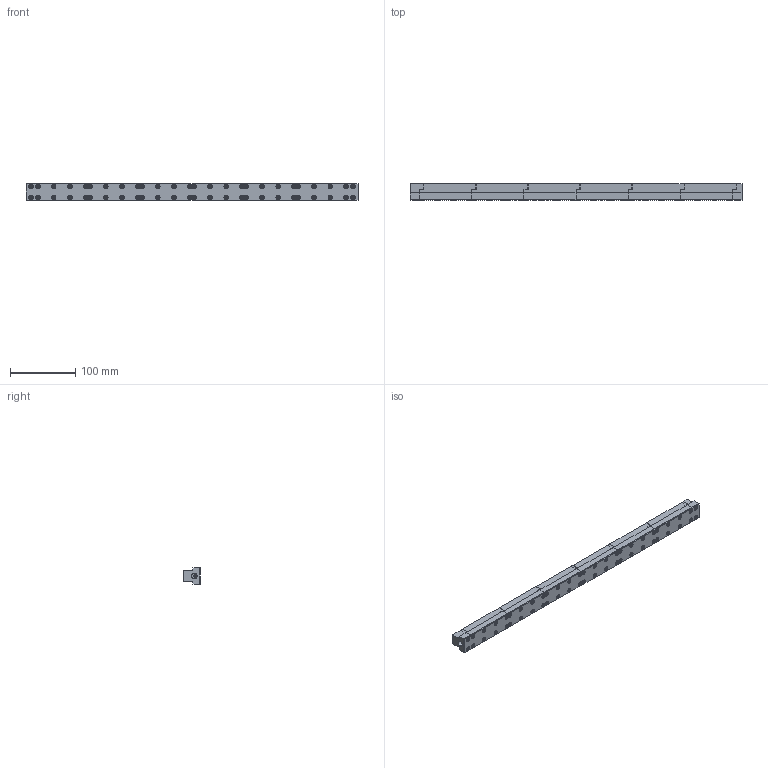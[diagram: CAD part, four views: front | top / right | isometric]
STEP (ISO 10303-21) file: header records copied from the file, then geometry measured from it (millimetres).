
FILE_DESCRIPTION( ( 'STEP AP214' ), '1' );
FILE_NAME( 'Z:/01-DesignData/標準品図面/★Web／カタログ用データ(型式別 3点Set)/073-ISR-18T/ISR-18T-510_0_.stp', '2022-05-10T02:50:51', ( 'License CC BY-ND 4.0' ), ( 'CADENAS' ), ' ', 'PARTsolutions', ' ' );
FILE_SCHEMA( ( 'AUTOMOTIVE_DESIGN { 1 0 10303 214 1 1 1 1 }' ) );
Length unit declared in the file: millimetre
Products named in the file (6): ISR-18T-510(0); _ISR-18T-510(0)_body; _ISR-18T-510_lc; _ISR-18T-510_rc; _M3x10; _ISR-18T-510_ball
Assembly tree (35 placements, depth 2):
  ISR-18T-510(0)
    _ISR-18T-510(0)_body
    _ISR-18T-510_lc
    _ISR-18T-510_rc
    _M3x10  x14
    _ISR-18T-510_ball  x18
Bounding box: 510 x 26 x 25 mm (x, y, z)
Volume: 250664 mm3; surface area: 126576 mm2
Topology: 35 solids, 35 shells, 1455 faces, 3486 edges, 2297 vertices
Faces by surface type: plane 1124, cylinder 198, cone 101, sphere 18, torus 14
Full cylindrical faces by diameter (mm): 2 x2, 2.459 x14, 3 x14, 3.5 x14, 5.5 x66, 6.2 x1, 8 x1, 13.4 x18, 14 x18, 20 x36
Entity records: 42608 total; most frequent: CARTESIAN_POINT 5791, DIRECTION 5406, ORIENTED_EDGE 5380, EDGE_CURVE 2690, LINE 2354, VECTOR 2354, VERTEX_POINT 1911, EDGE_LOOP 1534
